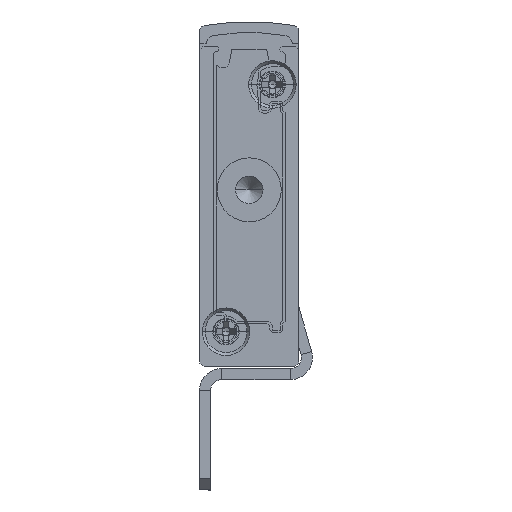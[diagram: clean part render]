
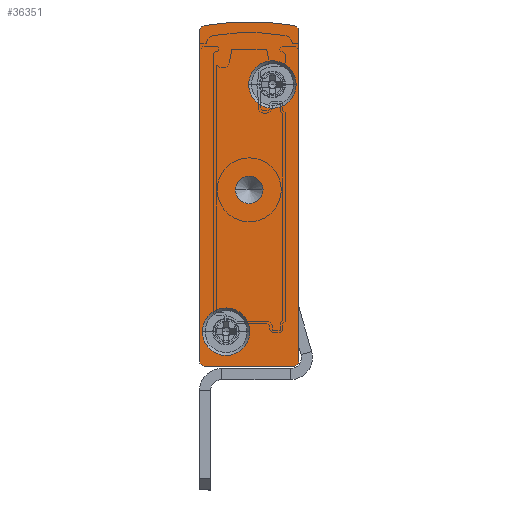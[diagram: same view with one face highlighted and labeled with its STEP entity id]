
A CAD part, front view. The second image highlights one B-rep face of the part: STEP entity #36351.
In plain terms, the highlighted planar face has unit normal (0, -1, 0).
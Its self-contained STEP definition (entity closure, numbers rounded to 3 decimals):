
#561 = EDGE_LOOP ( 'NONE', ( #26183, #18317 ) ) ;
#830 = EDGE_CURVE ( 'NONE', #14750, #7265, #27898, .T. ) ;
#1502 = EDGE_CURVE ( 'NONE', #7265, #33569, #19629, .T. ) ;
#1738 = CARTESIAN_POINT ( 'NONE',  ( 0., -2.5, 30.402 ) ) ;
#2294 = FACE_OUTER_BOUND ( 'NONE', #25993, .T. ) ;
#2518 = DIRECTION ( 'NONE',  ( 0., 1., 0. ) ) ;
#3043 = CIRCLE ( 'NONE', #11012, 2.15 ) ;
#3096 = EDGE_CURVE ( 'NONE', #16354, #26884, #33751, .T. ) ;
#3333 = CIRCLE ( 'NONE', #27823, 2.15 ) ;
#3923 = DIRECTION ( 'NONE',  ( 0., -1., 0. ) ) ;
#4364 = CARTESIAN_POINT ( 'NONE',  ( -0.25, -2.5, 25.55 ) ) ;
#4572 = VERTEX_POINT ( 'NONE', #12465 ) ;
#5189 = DIRECTION ( 'NONE',  ( 1., 0., 0. ) ) ;
#5198 = ORIENTED_EDGE ( 'NONE', *, *, #35664, .F. ) ;
#6051 = DIRECTION ( 'NONE',  ( 0., 1., 0. ) ) ;
#6196 = DIRECTION ( 'NONE',  ( 0., -1., 0. ) ) ;
#6363 = EDGE_CURVE ( 'NONE', #20855, #26188, #11243, .T. ) ;
#6400 = EDGE_LOOP ( 'NONE', ( #26758, #35914 ) ) ;
#6443 = CARTESIAN_POINT ( 'NONE',  ( -2.4, -2.5, 25.55 ) ) ;
#6456 = AXIS2_PLACEMENT_3D ( 'NONE', #31153, #25173, #22229 ) ;
#6973 = DIRECTION ( 'NONE',  ( 1., 0., 0. ) ) ;
#7265 = VERTEX_POINT ( 'NONE', #23138 ) ;
#7326 = ORIENTED_EDGE ( 'NONE', *, *, #10177, .F. ) ;
#7667 = ORIENTED_EDGE ( 'NONE', *, *, #17862, .F. ) ;
#8449 = CIRCLE ( 'NONE', #37225, 2.15 ) ;
#8786 = DIRECTION ( 'NONE',  ( 0., 1., 0. ) ) ;
#8790 = CIRCLE ( 'NONE', #30240, 2.15 ) ;
#9582 = CIRCLE ( 'NONE', #22296, 0.5 ) ;
#10135 = VECTOR ( 'NONE', #30655, 1000. ) ;
#10177 = EDGE_CURVE ( 'NONE', #33569, #17683, #9582, .T. ) ;
#10434 = DIRECTION ( 'NONE',  ( 0., 1., 0. ) ) ;
#10813 = AXIS2_PLACEMENT_3D ( 'NONE', #22599, #2518, #22706 ) ;
#11012 = AXIS2_PLACEMENT_3D ( 'NONE', #36178, #3923, #32835 ) ;
#11172 = DIRECTION ( 'NONE',  ( 0., 1., 0. ) ) ;
#11243 = CIRCLE ( 'NONE', #10813, 1.25 ) ;
#11576 = CARTESIAN_POINT ( 'NONE',  ( -4.5, -2.5, 16. ) ) ;
#11833 = EDGE_CURVE ( 'NONE', #26884, #13308, #36059, .T. ) ;
#11923 = VECTOR ( 'NONE', #30556, 1000. ) ;
#12465 = CARTESIAN_POINT ( 'NONE',  ( -8.75, -2.5, 3.15 ) ) ;
#12834 = EDGE_CURVE ( 'NONE', #26689, #14750, #27361, .T. ) ;
#13308 = VERTEX_POINT ( 'NONE', #20751 ) ;
#13400 = CARTESIAN_POINT ( 'NONE',  ( -8.5, -2.5, 0. ) ) ;
#14266 = CARTESIAN_POINT ( 'NONE',  ( -5.75, -2.5, 16. ) ) ;
#14750 = VERTEX_POINT ( 'NONE', #13400 ) ;
#15023 = CARTESIAN_POINT ( 'NONE',  ( -0.408, -2.5, 30.893 ) ) ;
#15618 = CARTESIAN_POINT ( 'NONE',  ( -8.5, -2.5, 0. ) ) ;
#16354 = VERTEX_POINT ( 'NONE', #15023 ) ;
#16714 = CARTESIAN_POINT ( 'NONE',  ( -8.592, -2.5, 30.893 ) ) ;
#17227 = PLANE ( 'NONE',  #32321 ) ;
#17394 = ORIENTED_EDGE ( 'NONE', *, *, #3096, .F. ) ;
#17683 = VERTEX_POINT ( 'NONE', #16714 ) ;
#17688 = DIRECTION ( 'NONE',  ( -1., 0., 0. ) ) ;
#17862 = EDGE_CURVE ( 'NONE', #28972, #25566, #3333, .T. ) ;
#18123 = CARTESIAN_POINT ( 'NONE',  ( -8.5, -2.5, 0.5 ) ) ;
#18184 = EDGE_CURVE ( 'NONE', #17683, #16354, #26326, .T. ) ;
#18317 = ORIENTED_EDGE ( 'NONE', *, *, #29466, .F. ) ;
#18352 = DIRECTION ( 'NONE',  ( 0., 1., 0. ) ) ;
#18554 = ORIENTED_EDGE ( 'NONE', *, *, #18184, .F. ) ;
#18609 = CARTESIAN_POINT ( 'NONE',  ( 0., -2.5, 30.402 ) ) ;
#18812 = EDGE_CURVE ( 'NONE', #20053, #4572, #3043, .T. ) ;
#19629 = LINE ( 'NONE', #36460, #11923 ) ;
#19667 = CARTESIAN_POINT ( 'NONE',  ( -0.5, -2.5, 0. ) ) ;
#19899 = DIRECTION ( 'NONE',  ( -1., 0., 0. ) ) ;
#20053 = VERTEX_POINT ( 'NONE', #28202 ) ;
#20125 = ORIENTED_EDGE ( 'NONE', *, *, #12834, .F. ) ;
#20275 = CARTESIAN_POINT ( 'NONE',  ( -9., -2.5, 30.402 ) ) ;
#20741 = CARTESIAN_POINT ( 'NONE',  ( -0.5, -2.5, 0.5 ) ) ;
#20751 = CARTESIAN_POINT ( 'NONE',  ( 0., -2.5, 0.5 ) ) ;
#20855 = VERTEX_POINT ( 'NONE', #20939 ) ;
#20939 = CARTESIAN_POINT ( 'NONE',  ( -3.25, -2.5, 16. ) ) ;
#21243 = DIRECTION ( 'NONE',  ( -1., 0., 0. ) ) ;
#21267 = DIRECTION ( 'NONE',  ( 0., 1., 0. ) ) ;
#21830 = DIRECTION ( 'NONE',  ( -1., 0., 0. ) ) ;
#22229 = DIRECTION ( 'NONE',  ( -1., 0., 0. ) ) ;
#22296 = AXIS2_PLACEMENT_3D ( 'NONE', #30352, #10434, #30613 ) ;
#22599 = CARTESIAN_POINT ( 'NONE',  ( -4.5, -2.5, 16. ) ) ;
#22706 = DIRECTION ( 'NONE',  ( -1., 0., 0. ) ) ;
#23054 = ORIENTED_EDGE ( 'NONE', *, *, #1502, .F. ) ;
#23138 = CARTESIAN_POINT ( 'NONE',  ( -9., -2.5, 0.5 ) ) ;
#23613 = CARTESIAN_POINT ( 'NONE',  ( -4.55, -2.5, 25.55 ) ) ;
#24200 = DIRECTION ( 'NONE',  ( -1., 0., 0. ) ) ;
#24249 = EDGE_CURVE ( 'NONE', #26188, #20855, #29506, .T. ) ;
#24909 = ORIENTED_EDGE ( 'NONE', *, *, #29355, .F. ) ;
#25173 = DIRECTION ( 'NONE',  ( 0., 1., 0. ) ) ;
#25556 = DIRECTION ( 'NONE',  ( 0., -1., 0. ) ) ;
#25566 = VERTEX_POINT ( 'NONE', #4364 ) ;
#25993 = EDGE_LOOP ( 'NONE', ( #7326, #23054, #34538, #20125, #24909, #31108, #17394, #18554 ) ) ;
#26183 = ORIENTED_EDGE ( 'NONE', *, *, #18812, .F. ) ;
#26188 = VERTEX_POINT ( 'NONE', #14266 ) ;
#26326 = CIRCLE ( 'NONE', #6456, 23.658 ) ;
#26689 = VERTEX_POINT ( 'NONE', #19667 ) ;
#26692 = DIRECTION ( 'NONE',  ( 1., 0., 0. ) ) ;
#26758 = ORIENTED_EDGE ( 'NONE', *, *, #24249, .T. ) ;
#26884 = VERTEX_POINT ( 'NONE', #18609 ) ;
#27082 = AXIS2_PLACEMENT_3D ( 'NONE', #29011, #6051, #17688 ) ;
#27361 = LINE ( 'NONE', #15618, #34236 ) ;
#27823 = AXIS2_PLACEMENT_3D ( 'NONE', #6443, #6196, #26692 ) ;
#27898 = CIRCLE ( 'NONE', #32146, 0.5 ) ;
#28202 = CARTESIAN_POINT ( 'NONE',  ( -4.45, -2.5, 3.15 ) ) ;
#28972 = VERTEX_POINT ( 'NONE', #23613 ) ;
#29011 = CARTESIAN_POINT ( 'NONE',  ( -0.5, -2.5, 30.402 ) ) ;
#29023 = FACE_BOUND ( 'NONE', #6400, .T. ) ;
#29355 = EDGE_CURVE ( 'NONE', #13308, #26689, #34277, .T. ) ;
#29466 = EDGE_CURVE ( 'NONE', #4572, #20053, #8790, .T. ) ;
#29506 = CIRCLE ( 'NONE', #29943, 1.25 ) ;
#29943 = AXIS2_PLACEMENT_3D ( 'NONE', #11576, #8786, #34032 ) ;
#30240 = AXIS2_PLACEMENT_3D ( 'NONE', #33008, #36231, #6973 ) ;
#30352 = CARTESIAN_POINT ( 'NONE',  ( -8.5, -2.5, 30.402 ) ) ;
#30556 = DIRECTION ( 'NONE',  ( 0., 0., 1. ) ) ;
#30613 = DIRECTION ( 'NONE',  ( -1., 0., 0. ) ) ;
#30655 = DIRECTION ( 'NONE',  ( 0., 0., -1. ) ) ;
#31108 = ORIENTED_EDGE ( 'NONE', *, *, #11833, .F. ) ;
#31153 = CARTESIAN_POINT ( 'NONE',  ( -4.5, -2.5, 7.592 ) ) ;
#32146 = AXIS2_PLACEMENT_3D ( 'NONE', #18123, #21267, #24200 ) ;
#32321 = AXIS2_PLACEMENT_3D ( 'NONE', #37620, #11172, #19899 ) ;
#32835 = DIRECTION ( 'NONE',  ( 1., 0., 0. ) ) ;
#33008 = CARTESIAN_POINT ( 'NONE',  ( -6.6, -2.5, 3.15 ) ) ;
#33569 = VERTEX_POINT ( 'NONE', #20275 ) ;
#33667 = AXIS2_PLACEMENT_3D ( 'NONE', #20741, #18352, #21243 ) ;
#33751 = CIRCLE ( 'NONE', #27082, 0.5 ) ;
#34032 = DIRECTION ( 'NONE',  ( -1., 0., 0. ) ) ;
#34236 = VECTOR ( 'NONE', #21830, 1000. ) ;
#34277 = CIRCLE ( 'NONE', #33667, 0.5 ) ;
#34538 = ORIENTED_EDGE ( 'NONE', *, *, #830, .F. ) ;
#34864 = EDGE_LOOP ( 'NONE', ( #5198, #7667 ) ) ;
#35664 = EDGE_CURVE ( 'NONE', #25566, #28972, #8449, .T. ) ;
#35875 = FACE_BOUND ( 'NONE', #34864, .T. ) ;
#35914 = ORIENTED_EDGE ( 'NONE', *, *, #6363, .T. ) ;
#36059 = LINE ( 'NONE', #1738, #10135 ) ;
#36178 = CARTESIAN_POINT ( 'NONE',  ( -6.6, -2.5, 3.15 ) ) ;
#36231 = DIRECTION ( 'NONE',  ( 0., -1., 0. ) ) ;
#36351 = ADVANCED_FACE ( 'NONE', ( #35875, #36825, #2294, #29023 ), #17227, .F. ) ;
#36460 = CARTESIAN_POINT ( 'NONE',  ( -9., -2.5, 30.402 ) ) ;
#36808 = CARTESIAN_POINT ( 'NONE',  ( -2.4, -2.5, 25.55 ) ) ;
#36825 = FACE_BOUND ( 'NONE', #561, .T. ) ;
#37225 = AXIS2_PLACEMENT_3D ( 'NONE', #36808, #25556, #5189 ) ;
#37620 = CARTESIAN_POINT ( 'NONE',  ( -8.5, -2.5, 30.402 ) ) ;
